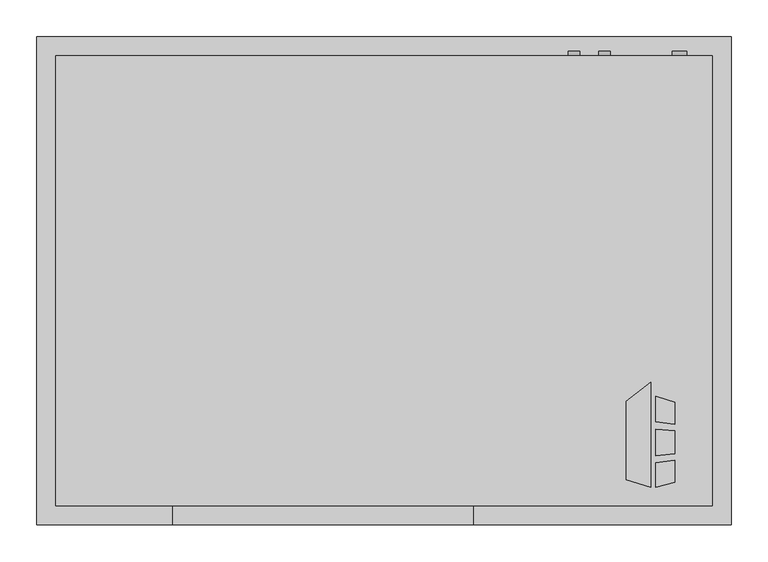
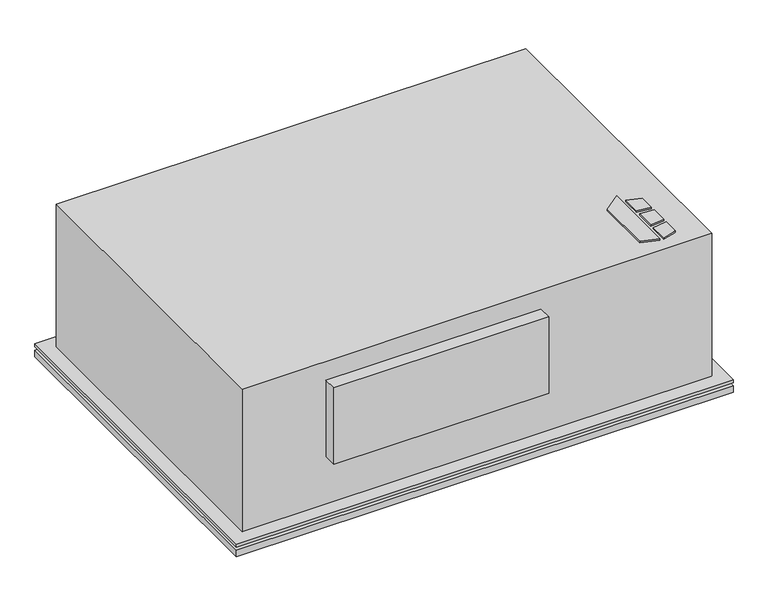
"""IFC4 building model written with IfcOpenShell, lengths in millimetres: proxy geometry, Horizontal_Telescoping_Fan_Coil_Unit_-_CBY_-_IEC_-_2-Pipe_Cool-EHeat_RH_2022 : Size 02 - 277v/60Hz/1Ph - 4 Row 2.0kW."""

from ifc_helpers import new_model, si_unit, point, frame, frame_2d, origin, origin_with_axes, place, context, project, spatial, polyline, circle_curve, trimmed, segment, composite_curve, outline, extrude, source, transform, mapped, element, save


def mechanical_equipment_790cad55(model_context):
    return source(origin(), model_context, "Body", "SweptSolid", [
        extrude(outline(polyline([(480.7019761, -401.0078476), (513.2602728, -375.5705184), (513.2602728, -517.525), (480.7019761, -507.3054201), (480.7019761, -401.0078476)])), origin_with_axes(), (0.0, 0.0, 1.0), 3.175),
        extrude(outline(polyline([(520.0186058, -428.879852), (520.0186058, -394.3999379), (546.1, -402.5865115), (546.1, -432.0822446), (520.0186058, -428.879852)])), origin_with_axes(), (0.0, 0.0, 1.0), 3.175),
        extrude(outline(polyline([(546.1, -510.5365115), (520.0186058, -517.525), (520.0186058, -484.3036996), (546.1, -480.7618564), (546.1, -510.5365115)])), origin_with_axes(), (0.0, 0.0, 1.0), 3.175),
        extrude(outline(polyline([(546.1, -441.1638277), (546.1, -472.413983), (520.0186058, -475.155248), (520.0186058, -439.2975378), (546.1, -441.1638277)])), origin_with_axes(), (0.0, 0.0, 1.0), 3.175),
        extrude(outline(composite_curve([segment(trimmed(circle_curve(frame_2d((-95.25, 450.85)), 7.9375), [point((-95.25, 458.7875))], [point((-95.25, 442.9125))], False, "CARTESIAN"), True, "CONTINUOUS"), segment(trimmed(circle_curve(frame_2d((-95.25, 450.85)), 7.9375), [point((-95.25, 442.9125))], [point((-95.25, 458.7875))], False, "CARTESIAN"), True, "CONTINUOUS")], self_intersect=False)), frame((0.0, 66.675, 0.0), z_axis=(0.0, 1.0, 0.0), x_axis=(0.0, 0.0, 1.0)), (0.0, 0.0, 1.0), 6.35),
        extrude(outline(composite_curve([segment(trimmed(circle_curve(frame_2d((-60.325, 409.575)), 7.9375), [point((-60.325, 417.5125))], [point((-60.325, 401.6375))], False, "CARTESIAN"), True, "CONTINUOUS"), segment(trimmed(circle_curve(frame_2d((-60.325, 409.575)), 7.9375), [point((-60.325, 401.6375))], [point((-60.325, 417.5125))], False, "CARTESIAN"), True, "CONTINUOUS")], self_intersect=False)), frame((0.0, 66.675, 0.0), z_axis=(0.0, 1.0, 0.0), x_axis=(0.0, 0.0, 1.0)), (0.0, 0.0, 1.0), 6.35),
        extrude(outline(composite_curve([segment(trimmed(circle_curve(frame_2d((-260.35, 552.45)), 9.525), [point((-260.35, 561.975))], [point((-260.35, 542.925))], False, "CARTESIAN"), True, "CONTINUOUS"), segment(trimmed(circle_curve(frame_2d((-260.35, 552.45)), 9.525), [point((-260.35, 542.925))], [point((-260.35, 561.975))], False, "CARTESIAN"), True, "CONTINUOUS")], self_intersect=False)), frame((0.0, 66.675, 0.0), z_axis=(0.0, 1.0, 0.0), x_axis=(0.0, 0.0, 1.0)), (0.0, 0.0, 1.0), 6.35),
        extrude(outline(polyline([(622.3, 92.075), (622.3, -568.325), (-317.5, -568.325), (-317.5, 92.075), (622.3, 92.075)])), frame((0.0, 0.0, -311.15), z_axis=(0.0, 0.0, 1.0), x_axis=(1.0, 0.0, 0.0)), (0.0, 0.0, 1.0), 12.7),
        extrude(outline(polyline([(622.3, 92.075), (622.3, -568.325), (-317.5, -568.325), (-317.5, 92.075), (622.3, 92.075)])), frame((0.0, 0.0, -292.1), z_axis=(0.0, 0.0, 1.0), x_axis=(1.0, 0.0, 0.0)), (0.0, 0.0, 1.0), 6.35),
        extrude(outline(polyline([(596.9, 66.675), (596.9, -542.925), (-292.1, -542.925), (-292.1, 66.675), (596.9, 66.675)])), frame((0.0, 0.0, -298.45), z_axis=(0.0, 0.0, 1.0), x_axis=(1.0, 0.0, 0.0)), (0.0, 0.0, 1.0), 6.35),
        extrude(outline(polyline([(273.05, -568.325), (-133.35, -568.325), (-133.35, -542.925), (273.05, -542.925), (273.05, -568.325)])), frame((0.0, 0.0, -190.5), z_axis=(0.0, 0.0, 1.0), x_axis=(1.0, 0.0, 0.0)), (0.0, 0.0, 1.0), 152.4),
        extrude(outline(polyline([(-292.1, 66.675), (596.9, 66.675), (596.9, -542.925), (-292.1, -542.925), (-292.1, 66.675)])), frame((0.0, 0.0, -285.75), z_axis=(0.0, 0.0, 1.0), x_axis=(1.0, 0.0, 0.0)), (0.0, 0.0, 1.0), 285.75),
        extrude(outline(polyline([(508.0, -9.525), (508.0, -263.525), (-203.2, -263.525), (-203.2, -9.525), (508.0, -9.525)])), frame((0.0, 0.0, -317.5), z_axis=(0.0, 0.0, 1.0), x_axis=(1.0, 0.0, 0.0)), (0.0, 0.0, 1.0), 6.35),
    ])


if __name__ == "__main__":
    model = new_model("IFC4")
    model_context = context("Model", 3, world=origin())
    ifc_project = project(units=[si_unit("LENGTHUNIT", "METRE", prefix="MILLI")], contexts=[model_context])
    site = spatial("IfcSite", under=ifc_project)
    building = spatial("IfcBuilding", under=site)
    placement = place(None, origin())
    mechanical_equipment_shape = mechanical_equipment_790cad55(model_context)
    element("IfcBuildingElementProxy", 1, Name="Horizontal_Telescoping_Fan_Coil_Unit_-_CBY_-_IEC_-_2-Pipe_Cool-EHeat_RH_2022 : Size 02 - 277v/60Hz/1Ph - 4 Row 2.0kW", ObjectType="Horizontal_Telescoping_Fan_Coil_Unit_-_CBY_-_IEC_-_2-Pipe_Cool-EHeat_RH_2022 : Size 02 - 277v/60Hz/1Ph - 4 Row 2.0kW", at=placement, inside=building, context=model_context, shape_type="MappedRepresentation", body=[
        mapped(mechanical_equipment_shape, transform((0.0, 0.0, 0.0), x_axis=(1.0, 0.0, 0.0), y_axis=(0.0, 1.0, 0.0), z_axis=(0.0, 0.0, 1.0))),
    ])
    save(model, "model.ifc")
